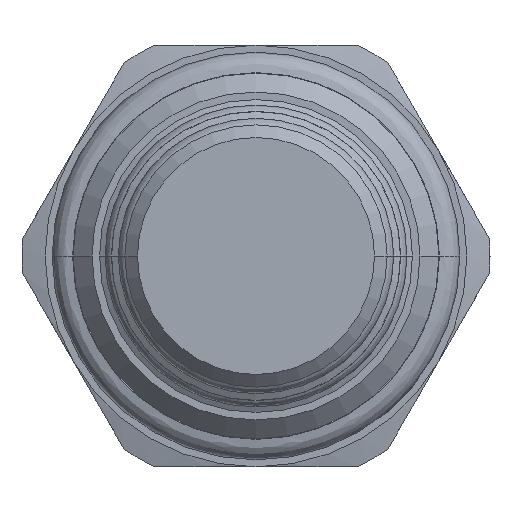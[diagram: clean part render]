
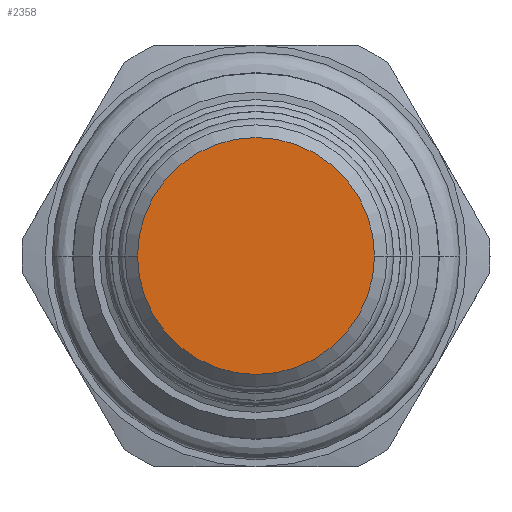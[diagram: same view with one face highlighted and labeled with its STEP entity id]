
A CAD part, front view. The second image highlights one B-rep face of the part: STEP entity #2358.
In plain terms, the highlighted planar face has unit normal (0, -1, 0).
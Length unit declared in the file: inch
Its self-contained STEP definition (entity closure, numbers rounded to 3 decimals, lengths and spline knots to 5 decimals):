
#842=CARTESIAN_POINT('',(0.,-1.813,0.));
#843=DIRECTION('',(0.,-1.,0.));
#844=DIRECTION('',(1.,0.,0.));
#845=AXIS2_PLACEMENT_3D('',#842,#843,#844);
#856=CARTESIAN_POINT('',(0.,-1.813,0.));
#857=DIRECTION('',(0.,1.,0.));
#858=DIRECTION('',(1.,0.,0.));
#859=AXIS2_PLACEMENT_3D('',#856,#857,#858);
#1041=CARTESIAN_POINT('',(0.281,-1.813,0.));
#1042=CARTESIAN_POINT('',(-0.281,-1.813,0.));
#1043=VERTEX_POINT('',#1041);
#1044=VERTEX_POINT('',#1042);
#2349=CARTESIAN_POINT('',(0.,-1.813,0.));
#2350=DIRECTION('',(0.,-1.,0.));
#2351=DIRECTION('',(-1.,0.,0.));
#2352=AXIS2_PLACEMENT_3D('',#2349,#2350,#2351);
#2353=PLANE('',#2352);
#2354=ORIENTED_EDGE('',*,*,#2329,.F.);
#2355=ORIENTED_EDGE('',*,*,#2343,.T.);
#2356=EDGE_LOOP('',(#2354,#2355));
#2357=FACE_OUTER_BOUND('',#2356,.F.);
#2358=ADVANCED_FACE('',(#2357),#2353,.T.);
#846=CIRCLE('',#845,0.281);
#860=CIRCLE('',#859,0.281);
#2329=EDGE_CURVE('',#1043,#1044,#846,.T.);
#2343=EDGE_CURVE('',#1043,#1044,#860,.T.);
